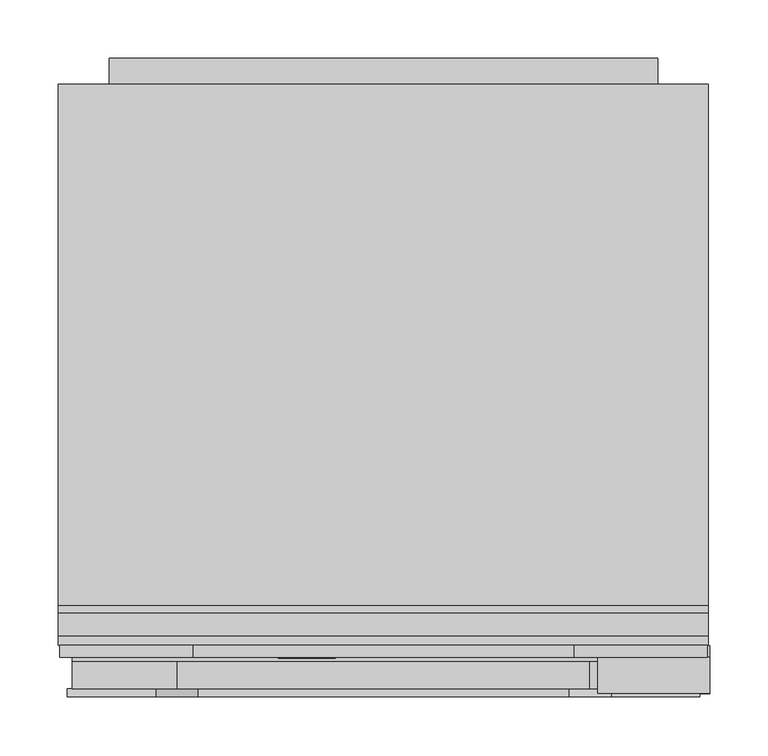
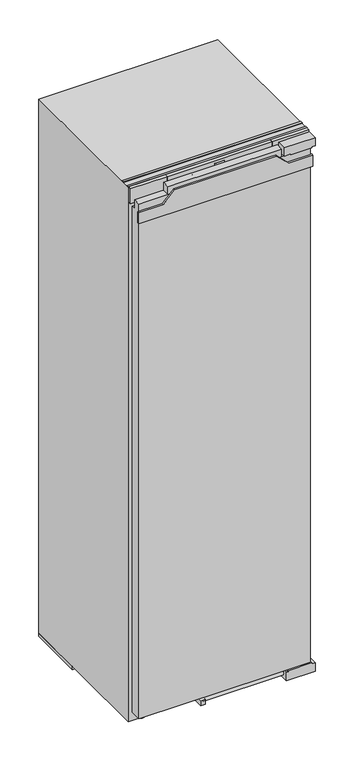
"""IFC4 building model written with IfcOpenShell, lengths in millimetres: proxy geometry, 12539700_OER_K7737D : 36773700_OER_12539700_K7737D."""

import ifcopenshell
import ifcopenshell.guid

model = None  # the IFC model being written
_history = None  # IfcOwnerHistory: only IFC2X3 demands one
_inside = {}  # id of a spatial element -> (the spatial element, [elements in it])
_under = {}  # id of a project, library or spatial element -> (it, [spatial elements below it])
_declared = {}  # id of a project -> (the project, [libraries it declares])
_typed = {}  # id of a type object -> (the type object, [elements of that type])
_made_of = {}  # id of a material, layer set ... -> (it, [elements and type objects made of it])


def new_model(schema):
    """Start an empty IFC model of exactly this schema.

    Asked for "IFC4X3", IfcOpenShell would pick the latest addendum, in which some entities
    have other attributes; the version numbers below select the first issue.
    IFC2X3 requires an IfcOwnerHistory on every rooted entity: one is made here for all.
    """
    global model, _history
    if schema == "IFC4X3":
        model = ifcopenshell.file(schema_version=(4, 3, 0, 0))
    else:
        model = ifcopenshell.file(schema=schema)
    _inside.clear()
    _under.clear()
    _declared.clear()
    _typed.clear()
    _made_of.clear()
    _history = None
    if model.schema == "IFC2X3":
        org = make("IfcOrganization", Name="unknown")
        user = make(
            "IfcPersonAndOrganization",
            ThePerson=make("IfcPerson", FamilyName="unknown"),
            TheOrganization=org,
        )
        app = make(
            "IfcApplication",
            ApplicationDeveloper=org,
            Version="unknown",
            ApplicationFullName="unknown",
            ApplicationIdentifier="unknown",
        )
        _history = make(
            "IfcOwnerHistory",
            OwningUser=user,
            OwningApplication=app,
            ChangeAction="ADDED",
            CreationDate=0,
        )
    return model


def make(cls, **values):
    """One entity of the class cls with the attributes given. An attribute that is None is left unset."""
    return model.create_entity(
        cls, **{name: value for name, value in values.items() if value is not None}
    )


def rooted(cls, **values):
    """An entity with a GlobalId (a new one), such as an element, a storey or a relation."""
    return make(cls, GlobalId=ifcopenshell.guid.new(), OwnerHistory=_history, **values)


def si_unit(unit_type, name, prefix=None):
    """IfcSIUnit, for example si_unit("LENGTHUNIT", "METRE", prefix="MILLI")."""
    return make("IfcSIUnit", UnitType=unit_type, Prefix=prefix, Name=name)


def assignment(units):
    """IfcUnitAssignment: the units of a project."""
    return None if units is None else make("IfcUnitAssignment", Units=units)


def point(xyz):
    """IfcCartesianPoint."""
    return None if xyz is None else make("IfcCartesianPoint", Coordinates=xyz)


def direction(xyz):
    """IfcDirection."""
    return None if xyz is None else make("IfcDirection", DirectionRatios=xyz)


def frame(location, z_axis=None, x_axis=None):
    """IfcAxis2Placement3D, a coordinate frame: its origin and axes. An axis left out is left unset."""
    return make(
        "IfcAxis2Placement3D",
        Location=point(location),
        Axis=direction(z_axis),
        RefDirection=direction(x_axis),
    )


def frame_2d(location, x_axis=None):
    """IfcAxis2Placement2D, a coordinate frame in the plane: its origin and x axis."""
    return make(
        "IfcAxis2Placement2D", Location=point(location), RefDirection=direction(x_axis)
    )


def origin():
    """The frame at (0, 0, 0) with its axes left unset."""
    return frame((0.0, 0.0, 0.0))


def origin_with_axes():
    """The frame at (0, 0, 0) with the z axis (0, 0, 1) and the x axis (1, 0, 0) written out."""
    return frame((0.0, 0.0, 0.0), z_axis=(0.0, 0.0, 1.0), x_axis=(1.0, 0.0, 0.0))


def place(relative_to, where):
    """IfcLocalPlacement: puts the frame where relative to a parent placement (None: the world)."""
    return make(
        "IfcLocalPlacement", PlacementRelTo=relative_to, RelativePlacement=where
    )


def context(
    kind, dimensions, precision=None, world=None, true_north=None, identifier=None
):
    """IfcGeometricRepresentationContext, for example the 3D "Model" context."""
    return make(
        "IfcGeometricRepresentationContext",
        ContextIdentifier=identifier,
        ContextType=kind,
        CoordinateSpaceDimension=dimensions,
        Precision=precision,
        WorldCoordinateSystem=world,
        TrueNorth=true_north,
    )


def project(units=None, contexts=None):
    """IfcProject with its units and contexts."""
    return rooted(
        "IfcProject",
        Name="project",
        RepresentationContexts=contexts,
        UnitsInContext=assignment(units),
    )


def spatial(cls, under=None, at=None, **own):
    """A site, building, storey or space (cls), placed at a placement, below another one or the project."""
    s = rooted(cls, ObjectPlacement=at, **own)
    if under is not None:
        _under.setdefault(under.id(), (under, []))[1].append(s)
    return s


def polyline(points):
    """IfcPolyline through the points."""
    return make("IfcPolyline", Points=[point(p) for p in points])


def circle_curve(where, radius):
    """IfcCircle in the frame where."""
    return make("IfcCircle", Position=where, Radius=radius)


def ellipse_curve(where, semi_axis1, semi_axis2):
    """IfcEllipse in the frame where."""
    return make(
        "IfcEllipse", Position=where, SemiAxis1=semi_axis1, SemiAxis2=semi_axis2
    )


def trimmed(basis, trim1, trim2, sense, master):
    """IfcTrimmedCurve: the piece of a basis curve between two trims."""
    return make(
        "IfcTrimmedCurve",
        BasisCurve=basis,
        Trim1=trim1,
        Trim2=trim2,
        SenseAgreement=sense,
        MasterRepresentation=master,
    )


def segment(curve, same_sense, transition):
    """IfcCompositeCurveSegment."""
    return make(
        "IfcCompositeCurveSegment",
        Transition=transition,
        SameSense=same_sense,
        ParentCurve=curve,
    )


def composite_curve(segments, self_intersect=None):
    """IfcCompositeCurve: segments joined end to end."""
    return make("IfcCompositeCurve", Segments=segments, SelfIntersect=self_intersect)


def outline(outer, holes=None, kind="AREA"):
    """IfcArbitraryClosedProfileDef: a profile drawn as a closed curve; with holes, ...WithVoids."""
    if holes is None:
        return make("IfcArbitraryClosedProfileDef", ProfileType=kind, OuterCurve=outer)
    return make(
        "IfcArbitraryProfileDefWithVoids",
        ProfileType=kind,
        OuterCurve=outer,
        InnerCurves=holes,
    )


def extrude(swept, where, along, depth):
    """IfcExtrudedAreaSolid: the profile swept, set in the frame where, extruded along a direction by depth."""
    return make(
        "IfcExtrudedAreaSolid",
        SweptArea=swept,
        Position=where,
        ExtrudedDirection=direction(along),
        Depth=depth,
    )


def faces_of(points, faces, orient=None, outer=None):
    """IfcFace entities. A face is a list of loops; a loop is a list of indices into points, from 0.

    orient and outer hold one flag for each loop. By default every Orientation is true, the
    first loop of a face is its IfcFaceOuterBound and the others are IfcFaceBound.
    """
    made = []
    for i, loops in enumerate(faces):
        bounds = []
        for j, loop in enumerate(loops):
            is_outer = j == 0 if outer is None else outer[i][j]
            bounds.append(
                make(
                    "IfcFaceOuterBound" if is_outer else "IfcFaceBound",
                    Bound=make("IfcPolyLoop", Polygon=[points[k] for k in loop]),
                    Orientation=True if orient is None else orient[i][j],
                )
            )
        made.append(make("IfcFace", Bounds=bounds))
    return made


def faceted_brep(points, faces, orient=None, outer=None, voids=None):
    """IfcFacetedBrep: a solid bounded by flat faces; with voids (closed shells), ...WithVoids."""
    shared = [point(p) for p in points]
    hull = make("IfcClosedShell", CfsFaces=faces_of(shared, faces, orient, outer))
    if voids is None:
        return make("IfcFacetedBrep", Outer=hull)
    return make(
        "IfcFacetedBrepWithVoids",
        Outer=hull,
        Voids=[
            make(cls, CfsFaces=faces_of(shared, fs, o, b)) for cls, fs, o, b in voids
        ],
    )


def shape(context_of_items, identifier, shape_type, items):
    """IfcShapeRepresentation: the items that make up one representation, for example the "Body"."""
    return make(
        "IfcShapeRepresentation",
        ContextOfItems=context_of_items,
        RepresentationIdentifier=identifier,
        RepresentationType=shape_type,
        Items=items,
    )


def source(mapping_origin, context_of_items, identifier, shape_type, items):
    """IfcRepresentationMap: a shape defined once, which mapped items show again and again."""
    return make(
        "IfcRepresentationMap",
        MappingOrigin=mapping_origin,
        MappedRepresentation=shape(context_of_items, identifier, shape_type, items),
    )


def transform(
    local_origin,
    x_axis=None,
    y_axis=None,
    z_axis=None,
    scale=None,
    scale2=None,
    scale3=None,
    uniform=True,
):
    """IfcCartesianTransformationOperator3D, or its non-uniform kind. x_axis, y_axis, z_axis: its Axis1, 2, 3."""
    if uniform:
        return make(
            "IfcCartesianTransformationOperator3D",
            Axis1=direction(x_axis),
            Axis2=direction(y_axis),
            LocalOrigin=point(local_origin),
            Scale=scale,
            Axis3=direction(z_axis),
        )
    return make(
        "IfcCartesianTransformationOperator3DnonUniform",
        Axis1=direction(x_axis),
        Axis2=direction(y_axis),
        LocalOrigin=point(local_origin),
        Scale=scale,
        Axis3=direction(z_axis),
        Scale2=scale2,
        Scale3=scale3,
    )


def mapped(mapping_source, mapping_target):
    """IfcMappedItem: shows the shape of a source again, moved by a transform."""
    return make(
        "IfcMappedItem", MappingSource=mapping_source, MappingTarget=mapping_target
    )


def made_of(thing, what):
    """Note that an element or type object is made of a material, layer set ...; save() writes the relation."""
    if what is not None:
        _made_of.setdefault(what.id(), (what, []))[1].append(thing)
    return thing


def element(
    cls,
    number,
    at=None,
    inside=None,
    cuts=None,
    type_object=None,
    material=None,
    context=None,
    identifier="Body",
    shape_type=None,
    held_by="IfcProductDefinitionShape",
    body=None,
    shapes=None,
    **own,
):
    """One element of the class cls, such as IfcWall. Its Tag is "e" and its number.

    at: its placement. inside: the storey or other place that contains it. cuts: it is an
    opening in that element (IfcRelVoidsElement). A single representation is given by context,
    identifier, shape_type and body (its items); several are given by shapes. held_by: the class
    of the entity that holds the representations. save() writes the other relations.
    """
    e = rooted(cls, Tag="e%d" % number, ObjectPlacement=at, **own)
    if body is not None:
        shapes = [shape(context, identifier, shape_type, body)]
    if shapes is not None:
        e.Representation = make(held_by, Representations=shapes)
    if inside is not None:
        _inside.setdefault(inside.id(), (inside, []))[1].append(e)
    if cuts is not None:
        rooted(
            "IfcRelVoidsElement", RelatingBuildingElement=cuts, RelatedOpeningElement=e
        )
    if type_object is not None:
        _typed.setdefault(type_object.id(), (type_object, []))[1].append(e)
    return made_of(e, material)


def aggregate(whole, parts):
    """IfcRelAggregates: a whole, such as a stair, and the parts it consists of."""
    return rooted("IfcRelAggregates", RelatingObject=whole, RelatedObjects=parts)


def save(model, path):
    """Write the relations noted so far, then the file.

    IfcRelAggregates (storeys below a building ...), IfcRelContainedInSpatialStructure (elements
    in a storey), IfcRelDefinesByType, IfcRelAssociatesMaterial and IfcRelDeclares: one each for
    every whole, place, type object, material and project.
    """
    for whole, parts in _under.values():
        aggregate(whole, parts)
    for where, things in _inside.values():
        rooted(
            "IfcRelContainedInSpatialStructure",
            RelatedElements=things,
            RelatingStructure=where,
        )
    for kind, things in _typed.values():
        rooted("IfcRelDefinesByType", RelatedObjects=things, RelatingType=kind)
    for what, things in _made_of.values():
        rooted("IfcRelAssociatesMaterial", RelatedObjects=things, RelatingMaterial=what)
    for by, libraries in _declared.values():
        rooted("IfcRelDeclares", RelatingContext=by, RelatedDefinitions=libraries)
    model.write(path)


def plane_surface(at):
    """IfcPlane: the flat surface through the origin of the frame at, square to its z axis."""
    return make("IfcPlane", Position=at)


def cylinder_surface(at, radius):
    """IfcCylindricalSurface: all points at the distance radius from the z axis of the frame at."""
    return make("IfcCylindricalSurface", Position=at, Radius=radius)


def revolved_surface(curve, axis_point, axis_direction):
    """IfcSurfaceOfRevolution: the curve turned about the line through axis_point along axis_direction."""
    return make(
        "IfcSurfaceOfRevolution",
        SweptCurve=make("IfcArbitraryOpenProfileDef", ProfileType="CURVE", Curve=curve),
        AxisPosition=make("IfcAxis1Placement", Location=point(axis_point), Axis=direction(axis_direction)),
    )


def extruded_surface(curve, direction_of_extrusion, depth):
    """IfcSurfaceOfLinearExtrusion: the curve pushed along a direction by depth."""
    return make(
        "IfcSurfaceOfLinearExtrusion",
        SweptCurve=make("IfcArbitraryOpenProfileDef", ProfileType="CURVE", Curve=curve),
        ExtrudedDirection=direction(direction_of_extrusion),
        Depth=depth,
    )


def advanced_brep(points, edges, surfaces, faces):
    """IfcAdvancedBrep: a solid bounded by faces that lie on surfaces and meet in shared edges.

    An edge is (start, end): straight between two places in points (the first is 0);
    or (start, end, curve); or (start, end, curve, False) where it runs against its curve.
    A face is (place in surfaces, loops), or (place, loops, False) where it looks against
    its surface's normal. A loop lists edges by number (the first is 1), with a minus sign
    where the edge is run from its end to its start. The first loop is the outer one.
    """
    corners = [point(p) for p in points]
    vertices = [make("IfcVertexPoint", VertexGeometry=c) for c in corners]
    made = []
    for start, end, *more in edges:
        made.append(
            make(
                "IfcEdgeCurve",
                EdgeStart=vertices[start],
                EdgeEnd=vertices[end],
                EdgeGeometry=more[0] if more else make("IfcPolyline", Points=[corners[start], corners[end]]),
                SameSense=more[1] if len(more) > 1 else True,
            )
        )
    hull = []
    for where, loops, *sense in faces:
        bounds = []
        for j, loop in enumerate(loops):
            ring = [make("IfcOrientedEdge", EdgeElement=made[abs(k) - 1], Orientation=k > 0) for k in loop]
            bounds.append(
                make(
                    "IfcFaceOuterBound" if j == 0 else "IfcFaceBound",
                    Bound=make("IfcEdgeLoop", EdgeList=ring),
                    Orientation=True,
                )
            )
        hull.append(make("IfcAdvancedFace", Bounds=bounds, FaceSurface=surfaces[where], SameSense=sense[0] if sense else True))
    return make("IfcAdvancedBrep", Outer=make("IfcClosedShell", CfsFaces=hull))


def specialty_equipment_5d5245c9(model_context):
    return source(origin(), model_context, "Body", "SolidModel", [
        extrude(outline(polyline([(1732.0, 203.5), (1732.0, 269.5), (1735.0, 269.5), (1735.0, 279.5), (1762.0, 279.5), (1762.0, 183.5), (1735.0, 183.5), (1735.0, 203.5), (1732.0, 203.5)])), frame((0.0, 3.0, 0.0), z_axis=(0.0, 1.0, 0.0), x_axis=(0.0, 0.0, 1.0)), (0.0, 0.0, 1.0), 31.0),
        extrude(outline(polyline([(34.0, 189.5), (7.0, 189.5), (7.0, 279.5), (34.0, 279.5), (34.0, 268.5), (38.0, 268.5), (38.0, 195.5), (34.0, 195.5), (34.0, 189.5)])), frame((0.0, 3.0, 0.0), z_axis=(0.0, 1.0, 0.0), x_axis=(0.0, 0.0, 1.0)), (0.0, 0.0, 1.0), 41.0),
        extrude(outline(polyline([(7.0, 38.0), (7.0, 1732.0), (30.0, 1732.0), (30.0, 1703.0), (44.0, 1703.0), (44.0, 38.0), (7.0, 38.0)])), frame((-266.5, 0.0, 0.0), z_axis=(1.0, 0.0, 0.0), x_axis=(0.0, 1.0, 0.0)), (0.0, 0.0, 1.0), 533.0),
        extrude(outline(polyline([(176.5, 7.0), (-176.5, 7.0), (-176.5, 30.0), (176.5, 30.0), (176.5, 7.0)])), frame((0.0, 0.0, 1732.0), z_axis=(0.0, 0.0, 1.0), x_axis=(1.0, 0.0, 0.0)), (0.0, 0.0, 1.0), 26.0),
        extrude(outline(polyline([(1673.0, 271.0), (1709.0, 271.0), (1709.0, 195.0), (1745.0, 159.0), (1745.0, -159.0), (1709.0, -195.0), (1709.0, -271.0), (1673.0, -271.0), (1673.0, 271.0)])), frame((0.0, 0.0, 0.0), z_axis=(0.0, 1.0, 0.0), x_axis=(0.0, 0.0, 1.0)), (0.0, 0.0, 1.0), 7.0),
        extrude(outline(polyline([(-74.0, 42.0), (-59.0, 42.0), (-59.0, 8.0), (-74.0, 8.0), (-74.0, 42.0)])), frame((0.0, 0.0, 14.0), z_axis=(0.0, 0.0, 1.0), x_axis=(1.0, 0.0, 0.0)), (0.0, 0.0, 1.0), 15.0),
        extrude(outline(composite_curve([segment(trimmed(circle_curve(frame_2d((-65.5, 25.0)), 6.5), [point((-72.0, 25.0))], [point((-59.0, 25.0))], False, "CARTESIAN"), True, "CONTINUOUS"), segment(trimmed(circle_curve(frame_2d((-65.5, 25.0)), 6.5), [point((-59.0, 25.0))], [point((-72.0, 25.0))], False, "CARTESIAN"), True, "CONTINUOUS")], self_intersect=False)), frame((0.0, 0.0, 29.0), z_axis=(0.0, 0.0, 1.0), x_axis=(1.0, 0.0, 0.0)), (0.0, 0.0, 1.0), 9.0),
        extrude(outline(composite_curve([segment(trimmed(circle_curve(frame_2d((25.0, 23.0)), 9.0), [point((25.0, 14.0))], [point((25.0, 32.0))], False, "CARTESIAN"), True, "CONTINUOUS"), segment(trimmed(circle_curve(frame_2d((25.0, 23.0)), 9.0), [point((25.0, 32.0))], [point((25.0, 14.0))], False, "CARTESIAN"), True, "CONTINUOUS")], self_intersect=False)), frame((-59.0, 0.0, 0.0), z_axis=(1.0, 0.0, 0.0), x_axis=(0.0, 1.0, 0.0)), (0.0, 0.0, 1.0), 248.5),
        advanced_brep(
        [(-46.64, 33.0, 1742.896), (-46.64, 33.0, 1743.704), (-41.288, 33.0, 1743.704), (-50.6, 33.0, 1743.704), (-48.4, 33.0, 1741.0), (-41.424, 33.0, 1742.896), (-43.84, 33.0, 1742.896), (-45.744, 33.0, 1742.0), (-46.64, 33.0, 1744.728), (-46.64, 33.0, 1745.6), (-45.272, 33.0, 1745.6), (-45.272, 33.0, 1744.728), (-46.64, 34.0, 1742.896), (-45.744, 34.0, 1742.0), (-43.84, 34.0, 1742.896), (-41.424, 34.0, 1742.896), (-48.4, 34.0, 1741.0), (-50.6, 34.0, 1743.704), (-41.288, 34.0, 1743.704), (-46.64, 34.0, 1743.704), (-46.64, 34.0, 1744.728), (-45.272, 34.0, 1744.728), (-45.272, 34.0, 1745.6), (-46.64, 34.0, 1745.6)],
        [
            (0, 1),
            (1, 2),
            (2, 3, ellipse_curve(frame((-45.944, 33.0, 1743.704), z_axis=(0.0, -1.0, 0.0), x_axis=(-1.0, 0.0, 0.0)), 4.656, 3.848)),
            (3, 4, circle_curve(frame((-47.5039564, 33.0, 1743.976), z_axis=(0.0, -1.0, 0.0), x_axis=(0.0, 0.0, -1.0)), 3.1079688)),
            (4, 5, circle_curve(frame((-46.0372064, 33.0, 1746.088), z_axis=(0.0, -1.0, 0.0), x_axis=(0.0, 0.0, -1.0)), 5.6098607)),
            (5, 6),
            (6, 7, circle_curve(frame((-45.3529412, 33.0, 1743.64), z_axis=(0.0, 1.0, 0.0), x_axis=(0.0, 0.0, -1.0)), 1.6859795)),
            (7, 0, circle_curve(frame((-45.744, 33.0, 1742.896), z_axis=(0.0, 1.0, 0.0), x_axis=(0.0, 0.0, -1.0)), 0.896)),
            (8, 9),
            (9, 10, circle_curve(frame((-45.956, 33.0, 1745.6), z_axis=(0.0, 1.0, 0.0), x_axis=(0.0, 0.0, -1.0)), 0.684)),
            (10, 11),
            (11, 8),
            (12, 13, circle_curve(frame((-45.744, 34.0, 1742.896), z_axis=(0.0, -1.0, 0.0), x_axis=(0.0, 0.0, -1.0)), 0.896)),
            (13, 14, circle_curve(frame((-45.3529412, 34.0, 1743.64), z_axis=(0.0, -1.0, 0.0), x_axis=(0.0, 0.0, -1.0)), 1.6859795)),
            (14, 15),
            (15, 16, circle_curve(frame((-46.0372064, 34.0, 1746.088), z_axis=(0.0, 1.0, 0.0), x_axis=(0.0, 0.0, -1.0)), 5.6098607)),
            (16, 17, circle_curve(frame((-47.5039564, 34.0, 1743.976), z_axis=(0.0, 1.0, 0.0), x_axis=(0.0, 0.0, -1.0)), 3.1079688)),
            (17, 18, ellipse_curve(frame((-45.944, 34.0, 1743.704), z_axis=(0.0, 1.0, 0.0), x_axis=(-1.0, 0.0, 0.0)), 4.656, 3.848)),
            (18, 19),
            (19, 12),
            (20, 21),
            (21, 22),
            (22, 23, circle_curve(frame((-45.956, 34.0, 1745.6), z_axis=(0.0, -1.0, 0.0), x_axis=(0.0, 0.0, -1.0)), 0.684)),
            (23, 20),
            (0, 12),
            (19, 1),
            (18, 2),
            (5, 15),
            (14, 6),
            (17, 3),
            (13, 7),
            (16, 4),
            (8, 20),
            (23, 9),
            (22, 10),
            (21, 11),
        ],
        [
            plane_surface(frame((-46.64, 33.0, 1743.704), z_axis=(0.0, -1.0, 0.0), x_axis=(0.0, 0.0, 1.0))),
            plane_surface(frame((-46.64, 34.0, 1743.704), z_axis=(0.0, 1.0, 0.0), x_axis=(0.0, 0.0, -1.0))),
            plane_surface(frame((-46.64, 33.0, 1742.896), z_axis=(1.0, 0.0, 0.0), x_axis=(0.0, 1.0, 0.0))),
            plane_surface(frame((-46.64, 33.0, 1743.704), z_axis=(0.0, 0.0, -1.0), x_axis=(0.0, 1.0, 0.0))),
            plane_surface(frame((-41.424, 33.0, 1742.896), z_axis=(0.0, 0.0, 1.0), x_axis=(0.0, 1.0, 0.0))),
            extruded_surface(trimmed(ellipse_curve(frame((-45.944, 35.0, 1743.704), z_axis=(0.0, -1.0, 0.0), x_axis=(-1.0, 0.0, 0.0)), 4.656, 3.848), [point((-41.288, 35.0, 1743.704))], [point((-50.6, 35.0, 1743.704))], True, "CARTESIAN"), (0.0, -1.0, 0.0), 1.0),
            revolved_surface(polyline([(-45.3529412, 34.0, 1741.9540205), (-45.3529412, 33.0, 1741.9540205)]), (-45.3529412, 34.0, 1743.64), (0.0, 1.0, 0.0)),
            revolved_surface(polyline([(-45.744, 34.0, 1742.0), (-45.744, 33.0, 1742.0)]), (-45.744, 34.0, 1742.896), (0.0, 1.0, 0.0)),
            cylinder_surface(frame((-47.5039564, 34.0, 1743.976), z_axis=(0.0, -1.0, 0.0), x_axis=(0.0, 0.0, -1.0)), 3.1079688),
            cylinder_surface(frame((-46.0372064, 34.0, 1746.088), z_axis=(0.0, -1.0, 0.0), x_axis=(0.0, 0.0, -1.0)), 5.6098607),
            plane_surface(frame((-46.64, 33.0, 1744.728), z_axis=(1.0, 0.0, 0.0), x_axis=(0.0, 1.0, 0.0))),
            revolved_surface(polyline([(-45.956, 34.0, 1744.916), (-45.956, 33.0, 1744.916)]), (-45.956, 34.0, 1745.6), (0.0, 1.0, 0.0)),
            plane_surface(frame((-45.272, 33.0, 1745.6), z_axis=(-1.0, 0.0, 0.0), x_axis=(0.0, 1.0, 0.0))),
            plane_surface(frame((-45.272, 33.0, 1744.728), z_axis=(0.0, 0.0, 1.0), x_axis=(0.0, 1.0, 0.0))),
        ],
        [
            (0, [[1, 2, 3, 4, 5, 6, 7, 8], [9, 10, 11, 12]]),
            (1, [[13, 14, 15, 16, 17, 18, 19, 20], [21, 22, 23, 24]]),
            (2, [[-1, 25, -20, 26]]),
            (3, [[-2, -26, -19, 27]]),
            (4, [[-6, 28, -15, 29]]),
            (5, [[-3, -27, -18, 30]]),
            (6, [[-7, -29, -14, 31]]),
            (7, [[-8, -31, -13, -25]]),
            (8, [[-4, -30, -17, 32]]),
            (9, [[-5, -32, -16, -28]]),
            (10, [[-9, 33, -24, 34]]),
            (11, [[-10, -34, -23, 35]]),
            (12, [[-11, -35, -22, 36]]),
            (13, [[-12, -36, -21, -33]]),
        ],
    ),
        advanced_brep(
        [(-63.336, 33.0, 1742.896), (-63.336, 33.0, 1743.704), (-57.984, 33.0, 1743.704), (-67.296, 33.0, 1743.704), (-65.096, 33.0, 1741.0), (-58.12, 33.0, 1742.896), (-60.536, 33.0, 1742.896), (-62.44, 33.0, 1742.0), (-63.336, 33.0, 1744.728), (-63.336, 33.0, 1745.6), (-61.968, 33.0, 1745.6), (-61.968, 33.0, 1744.728), (-63.336, 34.0, 1742.896), (-62.44, 34.0, 1742.0), (-60.536, 34.0, 1742.896), (-58.12, 34.0, 1742.896), (-65.096, 34.0, 1741.0), (-67.296, 34.0, 1743.704), (-57.984, 34.0, 1743.704), (-63.336, 34.0, 1743.704), (-63.336, 34.0, 1744.728), (-61.968, 34.0, 1744.728), (-61.968, 34.0, 1745.6), (-63.336, 34.0, 1745.6)],
        [
            (0, 1),
            (1, 2),
            (2, 3, ellipse_curve(frame((-62.64, 33.0, 1743.704), z_axis=(0.0, -1.0, 0.0), x_axis=(-1.0, 0.0, 0.0)), 4.656, 3.848)),
            (3, 4, circle_curve(frame((-64.1999564, 33.0, 1743.976), z_axis=(0.0, -1.0, 0.0), x_axis=(0.0, 0.0, -1.0)), 3.1079688)),
            (4, 5, circle_curve(frame((-62.7332064, 33.0, 1746.088), z_axis=(0.0, -1.0, 0.0), x_axis=(0.0, 0.0, -1.0)), 5.6098607)),
            (5, 6),
            (6, 7, circle_curve(frame((-62.0489412, 33.0, 1743.64), z_axis=(0.0, 1.0, 0.0), x_axis=(0.0, 0.0, -1.0)), 1.6859795)),
            (7, 0, circle_curve(frame((-62.44, 33.0, 1742.896), z_axis=(0.0, 1.0, 0.0), x_axis=(0.0, 0.0, -1.0)), 0.896)),
            (8, 9),
            (9, 10, circle_curve(frame((-62.652, 33.0, 1745.6), z_axis=(0.0, 1.0, 0.0), x_axis=(0.0, 0.0, -1.0)), 0.684)),
            (10, 11),
            (11, 8),
            (12, 13, circle_curve(frame((-62.44, 34.0, 1742.896), z_axis=(0.0, -1.0, 0.0), x_axis=(0.0, 0.0, -1.0)), 0.896)),
            (13, 14, circle_curve(frame((-62.0489412, 34.0, 1743.64), z_axis=(0.0, -1.0, 0.0), x_axis=(0.0, 0.0, -1.0)), 1.6859795)),
            (14, 15),
            (15, 16, circle_curve(frame((-62.7332064, 34.0, 1746.088), z_axis=(0.0, 1.0, 0.0), x_axis=(0.0, 0.0, -1.0)), 5.6098607)),
            (16, 17, circle_curve(frame((-64.1999564, 34.0, 1743.976), z_axis=(0.0, 1.0, 0.0), x_axis=(0.0, 0.0, -1.0)), 3.1079688)),
            (17, 18, ellipse_curve(frame((-62.64, 34.0, 1743.704), z_axis=(0.0, 1.0, 0.0), x_axis=(-1.0, 0.0, 0.0)), 4.656, 3.848)),
            (18, 19),
            (19, 12),
            (20, 21),
            (21, 22),
            (22, 23, circle_curve(frame((-62.652, 34.0, 1745.6), z_axis=(0.0, -1.0, 0.0), x_axis=(0.0, 0.0, -1.0)), 0.684)),
            (23, 20),
            (0, 12),
            (19, 1),
            (18, 2),
            (5, 15),
            (14, 6),
            (17, 3),
            (13, 7),
            (16, 4),
            (8, 20),
            (23, 9),
            (22, 10),
            (21, 11),
        ],
        [
            plane_surface(frame((-63.336, 33.0, 1743.704), z_axis=(0.0, -1.0, 0.0), x_axis=(0.0, 0.0, 1.0))),
            plane_surface(frame((-63.336, 34.0, 1743.704), z_axis=(0.0, 1.0, 0.0), x_axis=(0.0, 0.0, -1.0))),
            plane_surface(frame((-63.336, 33.0, 1742.896), z_axis=(1.0, 0.0, 0.0), x_axis=(0.0, 1.0, 0.0))),
            plane_surface(frame((-63.336, 33.0, 1743.704), z_axis=(0.0, 0.0, -1.0), x_axis=(0.0, 1.0, 0.0))),
            plane_surface(frame((-58.12, 33.0, 1742.896), z_axis=(0.0, 0.0, 1.0), x_axis=(0.0, 1.0, 0.0))),
            extruded_surface(trimmed(ellipse_curve(frame((-62.64, 35.0, 1743.704), z_axis=(0.0, -1.0, 0.0), x_axis=(-1.0, 0.0, 0.0)), 4.656, 3.848), [point((-57.984, 35.0, 1743.704))], [point((-67.296, 35.0, 1743.704))], True, "CARTESIAN"), (0.0, -1.0, 0.0), 1.0),
            revolved_surface(polyline([(-62.0489412, 34.0, 1741.9540205), (-62.0489412, 33.0, 1741.9540205)]), (-62.0489412, 34.0, 1743.64), (0.0, 1.0, 0.0)),
            revolved_surface(polyline([(-62.44, 34.0, 1742.0), (-62.44, 33.0, 1742.0)]), (-62.44, 34.0, 1742.896), (0.0, 1.0, 0.0)),
            cylinder_surface(frame((-64.1999564, 34.0, 1743.976), z_axis=(0.0, -1.0, 0.0), x_axis=(0.0, 0.0, -1.0)), 3.1079688),
            cylinder_surface(frame((-62.7332064, 34.0, 1746.088), z_axis=(0.0, -1.0, 0.0), x_axis=(0.0, 0.0, -1.0)), 5.6098607),
            plane_surface(frame((-63.336, 33.0, 1744.728), z_axis=(1.0, 0.0, 0.0), x_axis=(0.0, 1.0, 0.0))),
            revolved_surface(polyline([(-62.652, 34.0, 1744.916), (-62.652, 33.0, 1744.916)]), (-62.652, 34.0, 1745.6), (0.0, 1.0, 0.0)),
            plane_surface(frame((-61.968, 33.0, 1745.6), z_axis=(-1.0, 0.0, 0.0), x_axis=(0.0, 1.0, 0.0))),
            plane_surface(frame((-61.968, 33.0, 1744.728), z_axis=(0.0, 0.0, 1.0), x_axis=(0.0, 1.0, 0.0))),
        ],
        [
            (0, [[1, 2, 3, 4, 5, 6, 7, 8], [9, 10, 11, 12]]),
            (1, [[13, 14, 15, 16, 17, 18, 19, 20], [21, 22, 23, 24]]),
            (2, [[-1, 25, -20, 26]]),
            (3, [[-2, -26, -19, 27]]),
            (4, [[-6, 28, -15, 29]]),
            (5, [[-3, -27, -18, 30]]),
            (6, [[-7, -29, -14, 31]]),
            (7, [[-8, -31, -13, -25]]),
            (8, [[-4, -30, -17, 32]]),
            (9, [[-5, -32, -16, -28]]),
            (10, [[-9, 33, -24, 34]]),
            (11, [[-10, -34, -23, 35]]),
            (12, [[-11, -35, -22, 36]]),
            (13, [[-12, -36, -21, -33]]),
        ],
    ),
        extrude(outline(polyline([(1748.528, -72.08), (1747.232, -71.472), (1748.496, -68.76), (1749.792, -69.36), (1748.528, -72.08)])), frame((0.0, 33.0, 0.0), z_axis=(0.0, 1.0, 0.0), x_axis=(0.0, 0.0, 1.0)), (0.0, 0.0, 1.0), 1.0),
        extrude(outline(polyline([(1747.056, -74.056), (1745.624, -74.056), (1745.624, -73.104), (1742.344, -73.104), (1742.344, -74.056), (1741.0, -74.056), (1741.0, -67.744), (1742.344, -67.744), (1742.344, -68.672), (1747.056, -68.672), (1747.056, -74.056)])), frame((0.0, 33.0, 0.0), z_axis=(0.0, 1.0, 0.0), x_axis=(0.0, 0.0, 1.0)), (0.0, 0.0, 1.0), 1.0),
        extrude(outline(polyline([(1747.696, -57.536), (1747.696, -56.576), (1742.344, -56.576), (1742.344, -57.536), (1741.0, -57.536), (1741.0, -51.048), (1742.344, -51.048), (1742.344, -52.032), (1749.0, -52.032), (1749.0, -57.536), (1747.696, -57.536)])), frame((0.0, 33.0, 0.0), z_axis=(0.0, 1.0, 0.0), x_axis=(0.0, 0.0, 1.0)), (0.0, 0.0, 1.0), 1.0),
        extrude(outline(polyline([(1747.696, -90.0), (1747.696, -89.032), (1742.344, -89.032), (1742.344, -90.0), (1741.0, -90.0), (1741.0, -86.48), (1742.344, -86.48), (1742.344, -87.44), (1745.7471247, -87.44), (1741.0, -83.864), (1745.8152223, -80.272), (1742.344, -80.272), (1742.344, -81.256), (1741.0, -81.256), (1741.0, -74.872), (1742.344, -74.872), (1742.344, -75.888), (1747.696, -75.888), (1747.696, -74.872), (1749.0, -74.872), (1749.0, -79.744), (1746.0, -82.08), (1749.0, -84.424), (1749.0, -90.0), (1747.696, -90.0)])), frame((0.0, 33.0, 0.0), z_axis=(0.0, 1.0, 0.0), x_axis=(0.0, 0.0, 1.0)), (0.0, 0.0, 1.0), 1.0),
        extrude(outline(polyline([(-15.0, 35.0), (15.0, 35.0), (15.0, 34.0), (-15.0, 34.0), (-15.0, 35.0)])), frame((0.0, 0.0, 1731.0), z_axis=(0.0, 0.0, 1.0), x_axis=(1.0, 0.0, 0.0)), (0.0, 0.0, 1.0), 30.0),
        extrude(outline(polyline([(-277.5, 44.0), (-163.5, 44.0), (-163.5, 34.0), (-277.5, 34.0), (-277.5, 44.0)])), frame((0.0, 0.0, 1721.0), z_axis=(0.0, 0.0, 1.0), x_axis=(1.0, 0.0, 0.0)), (0.0, 0.0, 1.0), 49.0),
        extrude(outline(polyline([(163.5, 44.0), (277.5, 44.0), (277.5, 34.0), (163.5, 34.0), (163.5, 44.0)])), frame((0.0, 0.0, 1721.0), z_axis=(0.0, 0.0, 1.0), x_axis=(1.0, 0.0, 0.0)), (0.0, 0.0, 1.0), 49.0),
        faceted_brep([(163.5, 34.0, 1770.0), (-163.5, 34.0, 1770.0), (-163.5, 34.0, 1721.0), (163.5, 34.0, 1721.0), (15.0, 34.0, 1761.0), (15.0, 34.0, 1731.0), (-15.0, 34.0, 1731.0), (-15.0, 34.0, 1761.0), (163.5, 44.0, 1770.0), (163.5, 44.0, 1721.0), (-163.5, 44.0, 1721.0), (-163.5, 44.0, 1770.0), (15.0, 35.0, 1761.0), (-15.0, 35.0, 1761.0), (-15.0, 35.0, 1731.0), (15.0, 35.0, 1731.0)], [[[0, 1, 2, 3], [4, 5, 6, 7]], [[8, 9, 10, 11]], [[0, 3, 9, 8]], [[3, 2, 10, 9]], [[2, 1, 11, 10]], [[1, 0, 8, 11]], [[12, 13, 14, 15]], [[12, 15, 5, 4]], [[15, 14, 6, 5]], [[14, 13, 7, 6]], [[13, 12, 4, 7]]]),
        faceted_brep([(278.5, 525.0, 1767.0), (-278.5, 525.0, 1767.0), (-278.5, 44.0, 1767.0), (278.5, 44.0, 1767.0), (278.5, 525.0, 10.0), (278.5, 44.0, 10.0), (-278.5, 44.0, 10.0), (-278.5, 525.0, 10.0), (233.5, 44.0, 62.0), (-233.5, 44.0, 62.0), (-233.5, 44.0, 570.0), (-233.5, 44.0, 1692.0), (233.5, 44.0, 1692.0), (233.5, 44.0, 570.0), (233.5, 487.0, 1692.0), (-233.5, 487.0, 1692.0), (-233.5, 487.0, 570.0), (-233.5, 487.0, 62.0), (233.5, 487.0, 62.0), (233.5, 487.0, 570.0)], [[[0, 1, 2, 3]], [[4, 5, 6, 7]], [[1, 0, 4, 7]], [[2, 1, 7, 6]], [[3, 2, 6, 5], [8, 9, 10, 11, 12, 13]], [[0, 3, 5, 4]], [[14, 15, 16, 17, 18, 19]], [[18, 8, 13, 12, 14, 19]], [[18, 17, 9, 8]], [[9, 17, 16, 15, 11, 10]], [[15, 14, 12, 11]]]),
        extrude(outline(polyline([(278.5, 52.0), (278.5, 44.0), (-278.5, 44.0), (-278.5, 52.0), (278.5, 52.0)])), frame((0.0, 0.0, 1767.0), z_axis=(0.0, 0.0, 1.0), x_axis=(1.0, 0.0, 0.0)), (0.0, 0.0, 1.0), 3.0),
        extrude(outline(polyline([(278.5, 78.0), (278.5, 72.0), (-278.5, 72.0), (-278.5, 78.0), (278.5, 78.0)])), frame((0.0, 0.0, 1767.0), z_axis=(0.0, 0.0, 1.0), x_axis=(1.0, 0.0, 0.0)), (0.0, 0.0, 1.0), 3.0),
        extrude(outline(polyline([(278.5, 525.0), (278.5, 345.0), (-278.5, 345.0), (-278.5, 525.0), (278.5, 525.0)])), origin_with_axes(), (0.0, 0.0, 1.0), 10.0),
        extrude(outline(composite_curve([segment(trimmed(circle_curve(frame_2d((228.0, 64.0)), 11.0), [point((239.0, 64.0))], [point((217.0, 64.0))], False, "CARTESIAN"), True, "CONTINUOUS"), segment(trimmed(circle_curve(frame_2d((228.0, 64.0)), 11.0), [point((217.0, 64.0))], [point((239.0, 64.0))], False, "CARTESIAN"), True, "CONTINUOUS")], self_intersect=False)), origin_with_axes(), (0.0, 0.0, 1.0), 10.0),
        extrude(outline(composite_curve([segment(trimmed(circle_curve(frame_2d((-228.0, 64.0)), 11.0), [point((-217.0, 64.0))], [point((-239.0, 64.0))], False, "CARTESIAN"), True, "CONTINUOUS"), segment(trimmed(circle_curve(frame_2d((-228.0, 64.0)), 11.0), [point((-239.0, 64.0))], [point((-217.0, 64.0))], False, "CARTESIAN"), True, "CONTINUOUS")], self_intersect=False)), origin_with_axes(), (0.0, 0.0, 1.0), 10.0),
        extrude(outline(polyline([(-233.5, 349.0), (-233.5, 487.0), (233.5, 487.0), (233.5, 349.0), (-233.5, 349.0)])), frame((0.0, 0.0, 62.0), z_axis=(0.0, 0.0, 1.0), x_axis=(1.0, 0.0, 0.0)), (0.0, 0.0, 1.0), 188.0),
        extrude(outline(polyline([(-233.5, 44.0), (-233.5, 487.0), (233.5, 487.0), (233.5, 44.0), (-233.5, 44.0)])), frame((0.0, 0.0, 431.0), z_axis=(0.0, 0.0, 1.0), x_axis=(1.0, 0.0, 0.0)), (0.0, 0.0, 1.0), 3.0),
        extrude(outline(polyline([(-34.0, 44.0), (34.0, 44.0), (34.0, 35.0), (-34.0, 35.0), (-34.0, 44.0)])), frame((0.0, 0.0, 13.0), z_axis=(0.0, 0.0, 1.0), x_axis=(1.0, 0.0, 0.0)), (0.0, 0.0, 1.0), 19.0),
        advanced_brep(
        [(232.0, 525.0, 145.0), (217.0, 525.0, 145.0), (232.0, 546.5, 145.0), (217.0, 531.5, 145.0), (194.5, 546.5, 145.0), (194.5, 531.5, 145.0)],
        [
            (0, 1, circle_curve(frame((224.5, 525.0, 145.0), z_axis=(0.0, -1.0, 0.0), x_axis=(-1.0, 0.0, 0.0)), 7.5)),
            (1, 0, circle_curve(frame((224.5, 525.0, 145.0), z_axis=(0.0, -1.0, 0.0), x_axis=(-1.0, 0.0, 0.0)), 7.5)),
            (0, 2),
            (2, 3, ellipse_curve(frame((224.5, 539.0, 145.0), z_axis=(0.7071067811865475, -0.7071067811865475, 0.0), x_axis=(-0.7071067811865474, -0.7071067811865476, 0.0)), 10.6066017, 7.5)),
            (3, 1),
            (3, 2, ellipse_curve(frame((224.5, 539.0, 145.0), z_axis=(0.7071067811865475, -0.7071067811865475, 0.0), x_axis=(-0.7071067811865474, -0.7071067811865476, 0.0)), 10.6066017, 7.5)),
            (4, 5, circle_curve(frame((194.5, 539.0, 145.0), z_axis=(-1.0, 0.0, 0.0), x_axis=(0.0, -1.0, 0.0)), 7.5)),
            (5, 4, circle_curve(frame((194.5, 539.0, 145.0), z_axis=(-1.0, 0.0, 0.0), x_axis=(0.0, -1.0, 0.0)), 7.5)),
            (2, 4),
            (5, 3),
        ],
        [
            plane_surface(frame((224.5, 525.0, 145.0), z_axis=(0.0, -1.0, 0.0), x_axis=(0.0, 0.0, 1.0))),
            cylinder_surface(frame((224.5, 525.0, 145.0), z_axis=(0.0, -1.0, 0.0), x_axis=(-1.0, 0.0, 0.0)), 7.5),
            plane_surface(frame((194.5, 539.0, 145.0), z_axis=(-1.0, 0.0, 0.0), x_axis=(0.0, 0.0, 1.0))),
            cylinder_surface(frame((224.5, 539.0, 145.0), z_axis=(1.0, 0.0, 0.0), x_axis=(0.0, -1.0, 0.0)), 7.5),
        ],
        [
            (0, [[1, 2]]),
            (1, [[-1, 3, 4, 5]]),
            (1, [[-2, -5, 6, -3]]),
            (2, [[7, 8]]),
            (3, [[-4, 9, -8, 10]]),
            (3, [[-6, -10, -7, -9]]),
        ],
    ),
        extrude(outline(polyline([(538.651012, 148.8988246), (538.651012, 150.150839), (545.8850603, 150.150839), (545.8850603, 140.1043073), (538.5027529, 140.1043073), (538.5027529, 141.3585545), (544.6152499, 141.3585545), (544.6152499, 144.6556887), (538.967462, 144.6556887), (538.967462, 145.9162842), (544.6270824, 145.9162842), (544.6270824, 148.8988246), (538.651012, 148.8988246)])), frame((193.5, 0.0, 0.0), z_axis=(1.0, 0.0, 0.0), x_axis=(0.0, 1.0, 0.0)), (0.0, 0.0, 1.0), 1.0),
        extrude(outline(polyline([(536.624075, 150.150839), (536.624075, 140.1043073), (530.3334819, 140.1043073), (530.3334819, 141.3573374), (535.3334819, 141.3573374), (535.3334819, 150.150839), (536.624075, 150.150839)])), frame((193.5, 0.0, 0.0), z_axis=(1.0, 0.0, 0.0), x_axis=(0.0, 1.0, 0.0)), (0.0, 0.0, 1.0), 1.0),
        extrude(outline(polyline([(-144.9049535, 92.0), (-174.0, 92.0), (-194.5002931, 345.0), (-165.4052466, 345.0), (-144.9049535, 92.0)])), origin_with_axes(), (0.0, 0.0, 1.0), 10.0),
        extrude(outline(polyline([(147.7868487, 92.0), (165.4177409, 345.0), (194.4880722, 345.0), (176.8571801, 92.0), (147.7868487, 92.0)])), origin_with_axes(), (0.0, 0.0, 1.0), 10.0),
        extrude(outline(polyline([(1647.0, -235.0), (27.0, -235.0), (27.0, 235.0), (130.0, 235.0), (130.0, 170.0), (160.0, 170.0), (160.0, 235.0), (1647.0, 235.0), (1647.0, -235.0)])), frame((0.0, 525.0, 0.0), z_axis=(0.0, 1.0, 0.0), x_axis=(0.0, 0.0, 1.0)), (0.0, 0.0, 1.0), 22.0),
    ])


if __name__ == "__main__":
    model = new_model("IFC4")
    model_context = context("Model", 3, world=origin())
    ifc_project = project(units=[si_unit("LENGTHUNIT", "METRE", prefix="MILLI")], contexts=[model_context])
    site = spatial("IfcSite", under=ifc_project)
    building = spatial("IfcBuilding", under=site)
    placement = place(None, origin())
    specialty_equipment_shape = specialty_equipment_5d5245c9(model_context)
    element("IfcBuildingElementProxy", 1, Name="12539700_OER_K7737D : 36773700_OER_12539700_K7737D", ObjectType="12539700_OER_K7737D : 36773700_OER_12539700_K7737D", at=placement, inside=building, context=model_context, shape_type="MappedRepresentation", body=[
        mapped(specialty_equipment_shape, transform((0.0, 0.0, 0.0), x_axis=(1.0, 0.0, 0.0), y_axis=(0.0, 1.0, 0.0), z_axis=(0.0, 0.0, 1.0))),
    ])
    save(model, "model.ifc")
